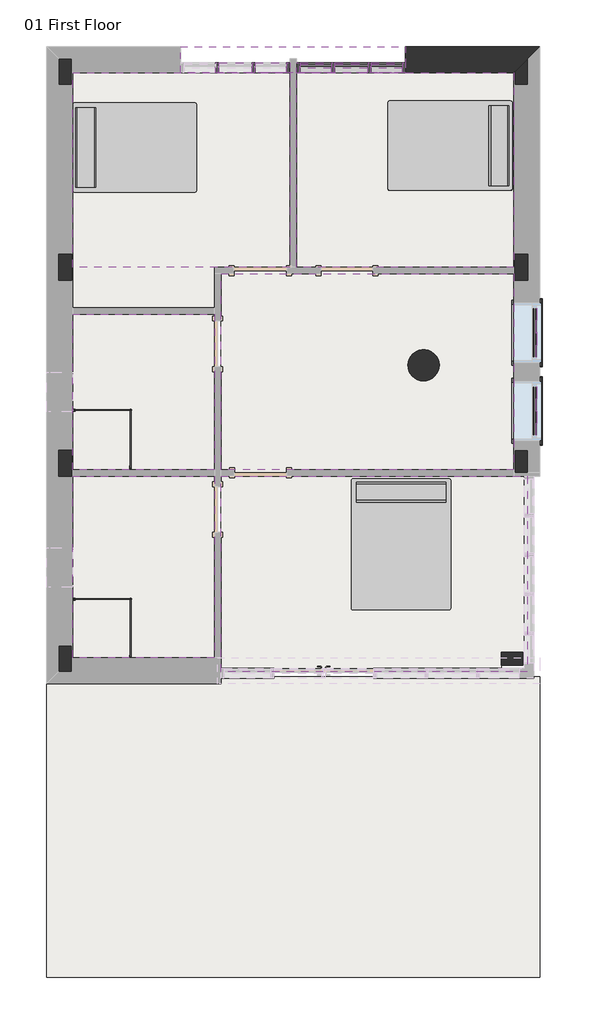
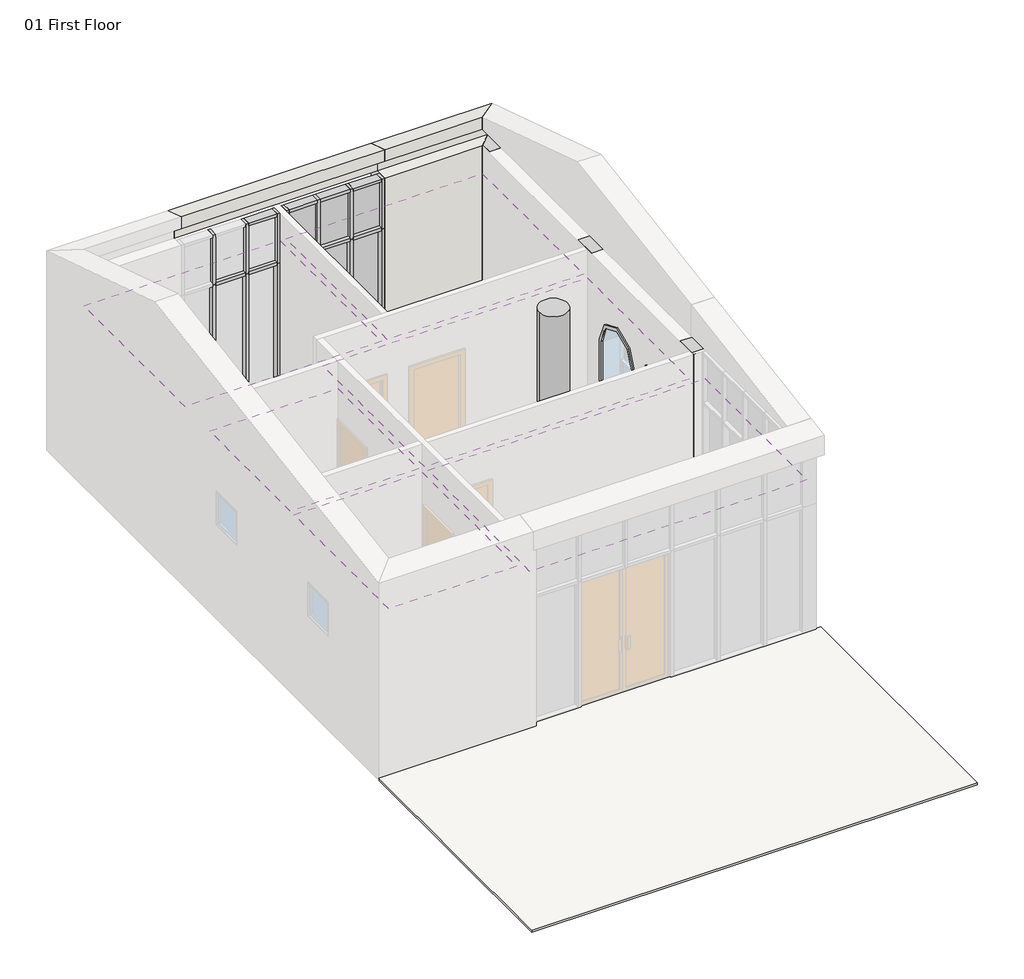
# One storey, part 3 of 3: 26 members, 9 columns, 8 proxies, 6 coverings, 6 plates, 4 flow terminals, 4 slabs, 3 furniture elements, 2 walls.
"""IFC4 building model written with IfcOpenShell, lengths in millimetres."""

from ifc_helpers import new_model, si_unit, point, frame, frame_2d, origin, place, context, project, spatial, polyline, circle_curve, trimmed, segment, composite_curve, outline, extrude, faceted_brep, transform, mapped, element, save
from components import m_muntin_pattern_2x2_m_muntin_pattern_2x2_eda20b33, m_trim_window_exterior_arch_hung_with_sill_d6b66b3f, m_trim_window_interior_arch_hung_picture_frame_427b2bff, cubicle_half_16156615, cubicle_half_ac79c43e, m_bed_standard_1372_x_1905mm_double_2dcc4a2e, m_bed_standard_1525_x_2007mm_queen_67038778, rectangular_mullion_50_x_150mm_8753ce05, rectangular_mullion_50_x_150mm_f70f74d1, rectangular_mullion_50_x_150mm_d1e66009, rectangular_mullion_50_x_150mm_158f91f9, rectangular_mullion_50_x_150mm_7e1a8c17, rectangular_mullion_50_x_150mm_3ddb3363, rectangular_mullion_50_x_150mm_35d6a770, rectangular_mullion_50_x_150mm_8bb02af5, rectangular_mullion_50_x_150mm_36ef6b42, rectangular_mullion_50_x_150mm_777ece87, rectangular_mullion_50_x_150mm_77e6cf30, system_panel_glazed_dae2c24c, system_panel_glazed_5e1a99da, system_panel_solid_02889cea, system_panel_solid_591e5d25

model = new_model("IFC4")

# Units and contexts
model_context = context("Model", 3, world=origin())
ifc_project = project(units=[si_unit("LENGTHUNIT", "METRE", prefix="MILLI")], contexts=[model_context])

# Site, building, storey
site = spatial("IfcSite", under=ifc_project)
building = spatial("IfcBuilding", under=site)
storey = spatial("IfcBuildingStorey", under=building, Name="01 First Floor", Elevation=3500.0)

# Proxies
placement = place(None, origin())
m_muntin_pattern_2x2_m_muntin_pattern_2x2_shape = m_muntin_pattern_2x2_m_muntin_pattern_2x2_eda20b33(model_context)
element("IfcBuildingElementProxy", 1, Name="M_Muntin Pattern_2x2 : M_Muntin Pattern_2x2", ObjectType="M_Muntin Pattern_2x2 : M_Muntin Pattern_2x2", at=placement, inside=storey, context=model_context, shape_type="MappedRepresentation", body=[
    mapped(m_muntin_pattern_2x2_m_muntin_pattern_2x2_shape, transform((-972.4657999, 936.7898352, 4922.225), x_axis=(0.0, -1.0, 0.0), y_axis=(1.0, 0.0, 0.0), z_axis=(0.0, 0.0, 1.0))),
])
element("IfcBuildingElementProxy", 2, Name="M_Muntin Pattern_2x2 : M_Muntin Pattern_2x2", ObjectType="M_Muntin Pattern_2x2 : M_Muntin Pattern_2x2", at=placement, inside=storey, context=model_context, shape_type="MappedRepresentation", body=[
    mapped(m_muntin_pattern_2x2_m_muntin_pattern_2x2_shape, transform((-1016.9157999, 936.7898352, 4076.2), x_axis=(0.0, -1.0, 0.0), y_axis=(1.0, 0.0, 0.0), z_axis=(0.0, 0.0, 1.0))),
])
element("IfcBuildingElementProxy", 3, Name="M_Muntin Pattern_2x2 : M_Muntin Pattern_2x2", ObjectType="M_Muntin Pattern_2x2 : M_Muntin Pattern_2x2", at=placement, inside=storey, context=model_context, shape_type="MappedRepresentation", body=[
    mapped(m_muntin_pattern_2x2_m_muntin_pattern_2x2_shape, transform((-972.4657999, 2136.7898352, 4922.225), x_axis=(0.0, -1.0, 0.0), y_axis=(1.0, 0.0, 0.0), z_axis=(0.0, 0.0, 1.0))),
])
element("IfcBuildingElementProxy", 4, Name="M_Muntin Pattern_2x2 : M_Muntin Pattern_2x2", ObjectType="M_Muntin Pattern_2x2 : M_Muntin Pattern_2x2", at=placement, inside=storey, context=model_context, shape_type="MappedRepresentation", body=[
    mapped(m_muntin_pattern_2x2_m_muntin_pattern_2x2_shape, transform((-1016.9157999, 2136.7898352, 4076.2), x_axis=(0.0, -1.0, 0.0), y_axis=(1.0, 0.0, 0.0), z_axis=(0.0, 0.0, 1.0))),
])
m_trim_window_exterior_arch_hung_with_sill_shape = m_trim_window_exterior_arch_hung_with_sill_d6b66b3f(model_context)
element("IfcBuildingElementProxy", 5, Name="M_Trim-Window-Exterior-Arch-Hung : with Sill", ObjectType="M_Trim-Window-Exterior-Arch-Hung : with Sill", at=placement, inside=storey, context=model_context, shape_type="MappedRepresentation", body=[
    mapped(m_trim_window_exterior_arch_hung_with_sill_shape, transform((-937.5407999, 936.7898352, 5800.0), x_axis=(0.0, 1.0, 0.0), y_axis=(0.0, 0.0, 1.0), z_axis=(1.0, 0.0, 0.0))),
])
element("IfcBuildingElementProxy", 6, Name="M_Trim-Window-Exterior-Arch-Hung : with Sill", ObjectType="M_Trim-Window-Exterior-Arch-Hung : with Sill", at=placement, inside=storey, context=model_context, shape_type="MappedRepresentation", body=[
    mapped(m_trim_window_exterior_arch_hung_with_sill_shape, transform((-937.5407999, 2136.7898352, 5800.0), x_axis=(0.0, 1.0, 0.0), y_axis=(0.0, 0.0, 1.0), z_axis=(1.0, 0.0, 0.0))),
])
m_trim_window_interior_arch_hung_picture_frame_shape = m_trim_window_interior_arch_hung_picture_frame_427b2bff(model_context)
element("IfcBuildingElementProxy", 7, Name="M_Trim-Window-Interior-Arch-Hung : Picture Frame", ObjectType="M_Trim-Window-Interior-Arch-Hung : Picture Frame", at=placement, inside=storey, context=model_context, shape_type="MappedRepresentation", body=[
    mapped(m_trim_window_interior_arch_hung_picture_frame_shape, transform((-1335.5407999, 936.7898352, 5800.0), x_axis=(0.0, -1.0, 0.0), y_axis=(0.0, 0.0, 1.0), z_axis=(-1.0, 0.0, 0.0))),
])
element("IfcBuildingElementProxy", 8, Name="M_Trim-Window-Interior-Arch-Hung : Picture Frame", ObjectType="M_Trim-Window-Interior-Arch-Hung : Picture Frame", at=placement, inside=storey, context=model_context, shape_type="MappedRepresentation", body=[
    mapped(m_trim_window_interior_arch_hung_picture_frame_shape, transform((-1335.5407999, 2136.7898352, 5800.0), x_axis=(0.0, -1.0, 0.0), y_axis=(0.0, 0.0, 1.0), z_axis=(-1.0, 0.0, 0.0))),
])

# Columns
element("IfcColumn", 9, ObjectType="M_Concrete-Rectangular-Column : 200 x 325mm", at=placement, inside=storey, context=model_context, shape_type="SweptSolid", body=[
    extrude(outline(polyline([(-1527.5407999, -2762.7101648), (-1202.5407999, -2762.7101648), (-1202.5407999, -2962.7101648), (-1527.5407999, -2962.7101648), (-1527.5407999, -2762.7101648)])), frame((0.0, 0.0, 3500.0), z_axis=(0.0, 0.0, 1.0), x_axis=(1.0, 0.0, 0.0)), (0.0, 0.0, 1.0), 3200.0),
])
element("IfcColumn", 10, ObjectType="M_Concrete-Rectangular-Column : 200 x 400mm", at=placement, inside=storey, context=model_context, shape_type="Brep", body=[
    faceted_brep([(-8122.5407999, 6337.2898352, 3500.0), (-8122.5407999, 6137.2898352, 3500.0), (-8122.5407999, 5937.2898352, 3500.0), (-8322.5407999, 5937.2898352, 3500.0), (-8322.5407999, 6337.2898352, 3500.0), (-8122.5407999, 6337.2898352, 6700.0), (-8122.5407999, 6137.2898352, 6700.0), (-8122.5407999, 5937.2898352, 6700.0), (-8322.5407999, 5937.2898352, 6700.0), (-8322.5407999, 6337.2898352, 6700.0)], [[[0, 1, 2, 3, 4]], [[2, 1, 0, 5, 6, 7]], [[3, 2, 7, 8]], [[4, 3, 8, 9]], [[0, 4, 9, 5]], [[7, 6, 5, 9, 8]]]),
])
element("IfcColumn", 11, ObjectType="M_Concrete-Rectangular-Column : 200 x 400mm", at=placement, inside=storey, context=model_context, shape_type="SweptSolid", body=[
    extrude(outline(polyline([(-8122.5407999, 3337.2898352), (-8122.5407999, 2937.2898352), (-8322.5407999, 2937.2898352), (-8322.5407999, 3337.2898352), (-8122.5407999, 3337.2898352)])), frame((0.0, 0.0, 3500.0), z_axis=(0.0, 0.0, 1.0), x_axis=(1.0, 0.0, 0.0)), (0.0, 0.0, 1.0), 3200.0),
])
element("IfcColumn", 12, ObjectType="M_Concrete-Rectangular-Column : 200 x 400mm", at=placement, inside=storey, context=model_context, shape_type="SweptSolid", body=[
    extrude(outline(polyline([(-8122.5407999, 337.2898352), (-8122.5407999, -62.7101648), (-8322.5407999, -62.7101648), (-8322.5407999, 337.2898352), (-8122.5407999, 337.2898352)])), frame((0.0, 0.0, 3500.0), z_axis=(0.0, 0.0, 1.0), x_axis=(1.0, 0.0, 0.0)), (0.0, 0.0, 1.0), 3200.0),
])
element("IfcColumn", 13, ObjectType="M_Concrete-Rectangular-Column : 200 x 400mm", at=placement, inside=storey, context=model_context, shape_type="Brep", body=[
    faceted_brep([(-8122.5407999, -2662.7101648, 3500.0), (-8122.5407999, -2862.7101648, 3500.0), (-8122.5407999, -3062.7101648, 3500.0), (-8322.5407999, -3062.7101648, 3500.0), (-8322.5407999, -2662.7101648, 3500.0), (-8122.5407999, -2662.7101648, 6700.0), (-8122.5407999, -2862.7101648, 6700.0), (-8122.5407999, -3062.7101648, 6700.0), (-8322.5407999, -3062.7101648, 6700.0), (-8322.5407999, -2662.7101648, 6700.0)], [[[0, 1, 2, 3, 4]], [[2, 1, 0, 5, 6, 7]], [[3, 2, 7, 8]], [[4, 3, 8, 9]], [[0, 4, 9, 5]], [[7, 6, 5, 9, 8]]]),
])
element("IfcColumn", 14, ObjectType="M_Concrete-Rectangular-Column : 200 x 400mm", at=placement, inside=storey, context=model_context, shape_type="Brep", body=[
    faceted_brep([(-1122.5407999, 337.2898352, 3500.0), (-1122.5407999, -12.7101648, 3500.0), (-1122.5407999, -62.7101648, 3500.0), (-1322.5407999, -62.7101648, 3500.0), (-1322.5407999, -12.7101648, 3500.0), (-1322.5407999, 337.2898352, 3500.0), (-1122.5407999, 337.2898352, 6700.0), (-1122.5407999, -62.7101648, 6700.0), (-1322.5407999, -62.7101648, 6700.0), (-1322.5407999, -12.7101648, 6700.0), (-1322.5407999, 337.2898352, 6700.0)], [[[0, 1, 2, 3, 4, 5]], [[2, 1, 0, 6, 7]], [[3, 2, 7, 8]], [[5, 4, 3, 8, 9, 10]], [[0, 5, 10, 6]], [[7, 6, 10, 9, 8]]]),
])
element("IfcColumn", 15, ObjectType="M_Concrete-Rectangular-Column : 200 x 400mm", at=placement, inside=storey, context=model_context, shape_type="Brep", body=[
    faceted_brep([(-1122.5407999, 6337.2898352, 3500.0), (-1122.5407999, 5937.2898352, 3500.0), (-1322.5407999, 5937.2898352, 3500.0), (-1322.5407999, 6137.2898352, 3500.0), (-1322.5407999, 6337.2898352, 3500.0), (-1122.5407999, 6337.2898352, 6700.0), (-1122.5407999, 5937.2898352, 6700.0), (-1322.5407999, 5937.2898352, 6700.0), (-1322.5407999, 6137.2898352, 6700.0), (-1322.5407999, 6337.2898352, 6700.0)], [[[0, 1, 2, 3, 4]], [[1, 0, 5, 6]], [[2, 1, 6, 7]], [[4, 3, 2, 7, 8, 9]], [[0, 4, 9, 5]], [[6, 5, 9, 8, 7]]]),
])
element("IfcColumn", 16, ObjectType="M_Concrete-Rectangular-Column : 200 x 400mm", at=placement, inside=storey, context=model_context, shape_type="SweptSolid", body=[
    extrude(outline(polyline([(-1122.5407999, 3337.2898352), (-1122.5407999, 2937.2898352), (-1322.5407999, 2937.2898352), (-1322.5407999, 3337.2898352), (-1122.5407999, 3337.2898352)])), frame((0.0, 0.0, 3500.0), z_axis=(0.0, 0.0, 1.0), x_axis=(1.0, 0.0, 0.0)), (0.0, 0.0, 1.0), 3200.0),
])
element("IfcColumn", 17, ObjectType="M_Concrete-Round-Column : 480mm", at=placement, inside=storey, context=model_context, shape_type="SweptSolid", body=[
    extrude(outline(composite_curve([segment(trimmed(circle_curve(frame_2d((-2722.5407999, 1637.2898352)), 240.0), [point((-2962.5407999, 1637.2898352))], [point((-2482.5407999, 1637.2898352))], False, "CARTESIAN"), True, "CONTINUOUS"), segment(trimmed(circle_curve(frame_2d((-2722.5407999, 1637.2898352)), 240.0), [point((-2482.5407999, 1637.2898352))], [point((-2962.5407999, 1637.2898352))], False, "CARTESIAN"), True, "CONTINUOUS")], self_intersect=False)), frame((0.0, 0.0, 3500.0), z_axis=(0.0, 0.0, 1.0), x_axis=(1.0, 0.0, 0.0)), (0.0, 0.0, 1.0), 3500.0),
])

# Coverings
element("IfcCovering", 18, ObjectType="600 x 600mm Grid", at=placement, inside=storey, context=model_context, shape_type="SweptSolid", body=[
    extrude(outline(polyline([(-1127.5407999, -62.7101648), (-1127.5407999, -3062.7101648), (-5832.5407999, -3062.7101648), (-5832.5407999, -62.7101648), (-1127.5407999, -62.7101648)])), frame((0.0, 0.0, 6200.0), z_axis=(0.0, 0.0, 1.0), x_axis=(1.0, 0.0, 0.0)), (0.0, 0.0, 1.0), 52.0),
])
element("IfcCovering", 19, ObjectType="600 x 600mm Grid", at=placement, inside=storey, context=model_context, shape_type="SweptSolid", body=[
    extrude(outline(polyline([(-5832.5407999, 3037.2898352), (-1335.5407999, 3037.6532062), (-1335.5407999, 37.2898352), (-5832.5407999, 37.2898352), (-5832.5407999, 3037.2898352)]), holes=[composite_curve([segment(polyline([(-3762.5550463, 1637.3625525), (-2962.1657331, 1637.3625525)]), True, "CONTINUOUS"), segment(trimmed(circle_curve(frame_2d((-2722.147977, 1637.3625525)), 240.0177561), [point((-2962.1657331, 1637.3625525))], [point((-2722.147977, 1397.3447964))], False, "CARTESIAN"), True, "CONTINUOUS"), segment(polyline([(-2722.147977, 1397.3447964), (-2709.6572376, 597.4130295)]), True, "CONTINUOUS"), segment(trimmed(circle_curve(frame_2d((-2722.5259059, 1637.3625525)), 1040.0291404), [point((-2709.6572376, 597.4130295))], [point((-3762.5550463, 1637.3625525))], True, "CARTESIAN"), True, "CONTINUOUS")], self_intersect=False)]), frame((0.0, 0.0, 6200.0), z_axis=(0.0, 0.0, 1.0), x_axis=(1.0, 0.0, 0.0)), (0.0, 0.0, 1.0), 52.0),
])
element("IfcCovering", 20, ObjectType="600 x 600mm Grid", at=placement, inside=storey, context=model_context, shape_type="SweptSolid", body=[
    extrude(outline(polyline([(-2997.5407999, 6124.2898352), (-1335.5407999, 6124.2898352), (-1335.5407999, 3137.6532065), (-4672.5407999, 3137.383567), (-4672.5407999, 6124.2898352), (-2997.5407999, 6124.2898352)])), frame((0.0, 0.0, 6200.0), z_axis=(0.0, 0.0, 1.0), x_axis=(1.0, 0.0, 0.0)), (0.0, 0.0, 1.0), 52.0),
])
element("IfcCovering", 21, ObjectType="600 x 600mm Grid", at=placement, inside=storey, context=model_context, shape_type="SweptSolid", body=[
    extrude(outline(polyline([(-4772.5407999, 6124.2898352), (-4772.5407999, 3137.3754867), (-8109.5407999, 3137.3754867), (-8109.5407999, 6124.2898352), (-4772.5407999, 6124.2898352)])), frame((0.0, 0.0, 6200.0), z_axis=(0.0, 0.0, 1.0), x_axis=(1.0, 0.0, 0.0)), (0.0, 0.0, 1.0), 52.0),
])
element("IfcCovering", 22, ObjectType="600 x 600mm Grid", at=placement, inside=storey, context=model_context, shape_type="SweptSolid", body=[
    extrude(outline(polyline([(-5932.5407999, 37.2898352), (-8109.5407999, 37.2898352), (-8109.5407999, 2415.8732706), (-5932.5407999, 2415.8732706), (-5932.5407999, 37.2898352)])), frame((0.0, 0.0, 6200.0), z_axis=(0.0, 0.0, 1.0), x_axis=(1.0, 0.0, 0.0)), (0.0, 0.0, 1.0), 52.0),
])
element("IfcCovering", 23, ObjectType="600 x 600mm Grid", at=placement, inside=storey, context=model_context, shape_type="SweptSolid", body=[
    extrude(outline(polyline([(-5932.5407999, -2849.7101648), (-8109.5407999, -2849.7101648), (-8109.5407999, -62.7101648), (-5932.5407999, -62.7101648), (-5932.5407999, -2849.7101648)])), frame((0.0, 0.0, 6200.0), z_axis=(0.0, 0.0, 1.0), x_axis=(1.0, 0.0, 0.0)), (0.0, 0.0, 1.0), 52.0),
])

# Flow terminals
cubicle_half_shape = cubicle_half_16156615(model_context)
element("IfcFlowTerminal", 24, ObjectType="Sanitary_Showers_Rare_OPEN-F00 : CUBICLE HALF", at=placement, inside=storey, context=model_context, shape_type="MappedRepresentation", body=[
    mapped(cubicle_half_shape, transform((-7234.0549259, -2849.7101648, 3700.0), x_axis=(0.0, 1.0, 0.0), y_axis=(-1.0, 0.0, 0.0), z_axis=(0.0, 0.0, 1.0))),
])
element("IfcFlowTerminal", 25, ObjectType="Sanitary_Showers_Rare_OPEN-F00 : CUBICLE HALF", at=placement, inside=storey, context=model_context, shape_type="MappedRepresentation", body=[
    mapped(cubicle_half_shape, transform((-7234.0549259, 50.2898352, 3700.0), x_axis=(0.0, 1.0, 0.0), y_axis=(-1.0, 0.0, 0.0), z_axis=(0.0, 0.0, 1.0))),
])
cubicle_half_2_shape = cubicle_half_ac79c43e(model_context)
element("IfcFlowTerminal", 26, ObjectType="Sanitary_Showers_Rare_OPEN-F00 : CUBICLE HALF", at=placement, inside=storey, context=model_context, shape_type="MappedRepresentation", body=[
    mapped(cubicle_half_2_shape, transform((-8109.5407999, -1964.2242907, 3688.0), x_axis=(1.0, 0.0, 0.0), y_axis=(0.0, 1.0, 0.0), z_axis=(0.0, 0.0, 1.0))),
])
element("IfcFlowTerminal", 27, ObjectType="Sanitary_Showers_Rare_OPEN-F00 : CUBICLE HALF", at=placement, inside=storey, context=model_context, shape_type="MappedRepresentation", body=[
    mapped(cubicle_half_2_shape, transform((-8109.5407999, 935.7757093, 3688.0), x_axis=(1.0, 0.0, 0.0), y_axis=(0.0, 1.0, 0.0), z_axis=(0.0, 0.0, 1.0))),
])

# Furniture
m_bed_standard_1372_x_1905mm_double_shape = m_bed_standard_1372_x_1905mm_double_2dcc4a2e(model_context)
element("IfcFurniture", 28, ObjectType="M_Bed-Standard : 1372 x 1905mm - Double", at=placement, inside=storey, context=model_context, shape_type="MappedRepresentation", body=[
    mapped(m_bed_standard_1372_x_1905mm_double_shape, transform((-2270.445718, 5273.7783598, 3515.0), x_axis=(0.0, -1.0, 0.0), y_axis=(1.0, 0.0, 0.0), z_axis=(0.0, 0.0, 1.0))),
])
element("IfcFurniture", 29, ObjectType="M_Bed-Standard : 1372 x 1905mm - Double", at=placement, inside=storey, context=model_context, shape_type="MappedRepresentation", body=[
    mapped(m_bed_standard_1372_x_1905mm_double_shape, transform((-7202.6358819, 4702.8013106, 3515.0), x_axis=(0.0, 1.0, 0.0), y_axis=(-1.0, 0.0, 0.0), z_axis=(0.0, 0.0, 1.0))),
])
m_bed_standard_1525_x_2007mm_queen_shape = m_bed_standard_1525_x_2007mm_queen_67038778(model_context)
element("IfcFurniture", 30, ObjectType="M_Bed-Standard : 1525 x 2007mm - Queen", at=placement, inside=storey, context=model_context, shape_type="MappedRepresentation", body=[
    mapped(m_bed_standard_1525_x_2007mm_queen_shape, transform((-3340.0293245, -1062.6150828, 3515.0), x_axis=(1.0, 0.0, 0.0), y_axis=(0.0, 1.0, 0.0), z_axis=(0.0, 0.0, 1.0))),
])

# Members
rectangular_mullion_50_x_150mm_shape = rectangular_mullion_50_x_150mm_8753ce05(model_context)
element("IfcMember", 31, ObjectType="Rectangular Mullion : 50 x 150mm", at=placement, inside=storey, context=model_context, shape_type="MappedRepresentation", body=[
    mapped(rectangular_mullion_50_x_150mm_shape, transform((-4772.5407999, 6199.2898352, 3500.0), x_axis=(1.0, 0.0, 0.0), y_axis=(0.0, -1.0, 0.0), z_axis=(0.0, 0.0, -1.0))),
])
element("IfcMember", 32, ObjectType="Rectangular Mullion : 50 x 150mm", at=placement, inside=storey, context=model_context, shape_type="MappedRepresentation", body=[
    mapped(rectangular_mullion_50_x_150mm_shape, transform((-2997.5407999, 6199.2898352, 3500.0), x_axis=(1.0, 0.0, 0.0), y_axis=(0.0, -1.0, 0.0), z_axis=(0.0, 0.0, -1.0))),
])
element("IfcMember", 33, ObjectType="Rectangular Mullion : 50 x 150mm", at=placement, inside=storey, context=model_context, shape_type="MappedRepresentation", body=[
    mapped(rectangular_mullion_50_x_150mm_shape, transform((-4668.7907999, 6199.2898352, 5800.0), x_axis=(-1.0, 0.0, 0.0), y_axis=(0.0, -1.0, 0.0), z_axis=(0.0, 0.0, 1.0))),
])
rectangular_mullion_50_x_150mm_2_shape = rectangular_mullion_50_x_150mm_f70f74d1(model_context)
element("IfcMember", 34, ObjectType="Rectangular Mullion : 50 x 150mm", at=placement, inside=storey, context=model_context, shape_type="MappedRepresentation", body=[
    mapped(rectangular_mullion_50_x_150mm_2_shape, transform((-5889.2074665, 6199.2898352, 3500.0), x_axis=(1.0, 0.0, 0.0), y_axis=(0.0, -1.0, 0.0), z_axis=(0.0, 0.0, -1.0))),
])
element("IfcMember", 35, ObjectType="Rectangular Mullion : 50 x 150mm", at=placement, inside=storey, context=model_context, shape_type="MappedRepresentation", body=[
    mapped(rectangular_mullion_50_x_150mm_2_shape, transform((-5330.8741334, 6199.2898352, 3500.0), x_axis=(1.0, 0.0, 0.0), y_axis=(0.0, -1.0, 0.0), z_axis=(0.0, 0.0, -1.0))),
])
element("IfcMember", 36, ObjectType="Rectangular Mullion : 50 x 150mm", at=placement, inside=storey, context=model_context, shape_type="MappedRepresentation", body=[
    mapped(rectangular_mullion_50_x_150mm_2_shape, transform((-4111.7074665, 6199.2898352, 3500.0), x_axis=(1.0, 0.0, 0.0), y_axis=(0.0, -1.0, 0.0), z_axis=(0.0, 0.0, -1.0))),
])
element("IfcMember", 37, ObjectType="Rectangular Mullion : 50 x 150mm", at=placement, inside=storey, context=model_context, shape_type="MappedRepresentation", body=[
    mapped(rectangular_mullion_50_x_150mm_2_shape, transform((-3554.6241334, 6199.2898352, 3500.0), x_axis=(1.0, 0.0, 0.0), y_axis=(0.0, -1.0, 0.0), z_axis=(0.0, 0.0, -1.0))),
])
rectangular_mullion_50_x_150mm_3_shape = rectangular_mullion_50_x_150mm_d1e66009(model_context)
element("IfcMember", 38, ObjectType="Rectangular Mullion : 50 x 150mm", at=placement, inside=storey, context=model_context, shape_type="MappedRepresentation", body=[
    mapped(rectangular_mullion_50_x_150mm_3_shape, transform((-4822.5407999, 6199.2898352, 6700.0), x_axis=(0.0, 0.0, 1.0), y_axis=(0.0, -1.0, 0.0), z_axis=(1.0, 0.0, 0.0))),
])
rectangular_mullion_50_x_150mm_4_shape = rectangular_mullion_50_x_150mm_158f91f9(model_context)
element("IfcMember", 39, ObjectType="Rectangular Mullion : 50 x 150mm", at=placement, inside=storey, context=model_context, shape_type="MappedRepresentation", body=[
    mapped(rectangular_mullion_50_x_150mm_4_shape, transform((-4822.5407999, 6199.2898352, 5800.0), x_axis=(0.0, 0.0, 1.0), y_axis=(0.0, -1.0, 0.0), z_axis=(1.0, 0.0, 0.0))),
])
rectangular_mullion_50_x_150mm_5_shape = rectangular_mullion_50_x_150mm_7e1a8c17(model_context)
element("IfcMember", 40, ObjectType="Rectangular Mullion : 50 x 150mm", at=placement, inside=storey, context=model_context, shape_type="MappedRepresentation", body=[
    mapped(rectangular_mullion_50_x_150mm_5_shape, transform((-5355.8741334, 6199.2898352, 5800.0), x_axis=(0.0, 0.0, 1.0), y_axis=(0.0, -1.0, 0.0), z_axis=(1.0, 0.0, 0.0))),
])
rectangular_mullion_50_x_150mm_6_shape = rectangular_mullion_50_x_150mm_3ddb3363(model_context)
element("IfcMember", 41, ObjectType="Rectangular Mullion : 50 x 150mm", at=placement, inside=storey, context=model_context, shape_type="MappedRepresentation", body=[
    mapped(rectangular_mullion_50_x_150mm_6_shape, transform((-5889.2074665, 6199.2898352, 5800.0), x_axis=(1.0, 0.0, 0.0), y_axis=(0.0, -1.0, 0.0), z_axis=(0.0, 0.0, -1.0))),
])
element("IfcMember", 42, ObjectType="Rectangular Mullion : 50 x 150mm", at=placement, inside=storey, context=model_context, shape_type="MappedRepresentation", body=[
    mapped(rectangular_mullion_50_x_150mm_6_shape, transform((-5330.8741334, 6199.2898352, 5800.0), x_axis=(1.0, 0.0, 0.0), y_axis=(0.0, -1.0, 0.0), z_axis=(0.0, 0.0, -1.0))),
])
element("IfcMember", 43, ObjectType="Rectangular Mullion : 50 x 150mm", at=placement, inside=storey, context=model_context, shape_type="MappedRepresentation", body=[
    mapped(rectangular_mullion_50_x_150mm_6_shape, transform((-4111.7074665, 6199.2898352, 5800.0), x_axis=(1.0, 0.0, 0.0), y_axis=(0.0, -1.0, 0.0), z_axis=(0.0, 0.0, -1.0))),
])
element("IfcMember", 44, ObjectType="Rectangular Mullion : 50 x 150mm", at=placement, inside=storey, context=model_context, shape_type="MappedRepresentation", body=[
    mapped(rectangular_mullion_50_x_150mm_6_shape, transform((-3554.6241334, 6199.2898352, 5800.0), x_axis=(1.0, 0.0, 0.0), y_axis=(0.0, -1.0, 0.0), z_axis=(0.0, 0.0, -1.0))),
])
rectangular_mullion_50_x_150mm_7_shape = rectangular_mullion_50_x_150mm_35d6a770(model_context)
element("IfcMember", 45, ObjectType="Rectangular Mullion : 50 x 150mm", at=placement, inside=storey, context=model_context, shape_type="MappedRepresentation", body=[
    mapped(rectangular_mullion_50_x_150mm_7_shape, transform((-4772.5407999, 6199.2898352, 5800.0), x_axis=(1.0, 0.0, 0.0), y_axis=(0.0, -1.0, 0.0), z_axis=(0.0, 0.0, -1.0))),
])
element("IfcMember", 46, ObjectType="Rectangular Mullion : 50 x 150mm", at=placement, inside=storey, context=model_context, shape_type="MappedRepresentation", body=[
    mapped(rectangular_mullion_50_x_150mm_7_shape, transform((-2997.5407999, 6199.2898352, 5800.0), x_axis=(1.0, 0.0, 0.0), y_axis=(0.0, -1.0, 0.0), z_axis=(0.0, 0.0, -1.0))),
])
element("IfcMember", 47, ObjectType="Rectangular Mullion : 50 x 150mm", at=placement, inside=storey, context=model_context, shape_type="MappedRepresentation", body=[
    mapped(rectangular_mullion_50_x_150mm_7_shape, transform((-4668.7907999, 6199.2898352, 6700.0), x_axis=(-1.0, 0.0, 0.0), y_axis=(0.0, -1.0, 0.0), z_axis=(0.0, 0.0, 1.0))),
])
rectangular_mullion_50_x_150mm_8_shape = rectangular_mullion_50_x_150mm_8bb02af5(model_context)
element("IfcMember", 48, ObjectType="Rectangular Mullion : 50 x 150mm", at=placement, inside=storey, context=model_context, shape_type="MappedRepresentation", body=[
    mapped(rectangular_mullion_50_x_150mm_8_shape, transform((-3047.5407999, 6199.2898352, 6700.0), x_axis=(0.0, 0.0, 1.0), y_axis=(0.0, -1.0, 0.0), z_axis=(1.0, 0.0, 0.0))),
])
element("IfcMember", 49, ObjectType="Rectangular Mullion : 50 x 150mm", at=placement, inside=storey, context=model_context, shape_type="MappedRepresentation", body=[
    mapped(rectangular_mullion_50_x_150mm_8_shape, transform((-4136.7074665, 6199.2898352, 6700.0), x_axis=(0.0, 0.0, 1.0), y_axis=(0.0, -1.0, 0.0), z_axis=(1.0, 0.0, 0.0))),
])
rectangular_mullion_50_x_150mm_9_shape = rectangular_mullion_50_x_150mm_36ef6b42(model_context)
element("IfcMember", 50, ObjectType="Rectangular Mullion : 50 x 150mm", at=placement, inside=storey, context=model_context, shape_type="MappedRepresentation", body=[
    mapped(rectangular_mullion_50_x_150mm_9_shape, transform((-3579.6241334, 6199.2898352, 6700.0), x_axis=(0.0, 0.0, 1.0), y_axis=(0.0, -1.0, 0.0), z_axis=(1.0, 0.0, 0.0))),
])
element("IfcMember", 51, ObjectType="Rectangular Mullion : 50 x 150mm", at=placement, inside=storey, context=model_context, shape_type="MappedRepresentation", body=[
    mapped(rectangular_mullion_50_x_150mm_8_shape, transform((-4618.7907999, 6199.2898352, 3500.0), x_axis=(0.0, 0.0, -1.0), y_axis=(0.0, -1.0, 0.0), z_axis=(-1.0, 0.0, 0.0))),
])
element("IfcMember", 52, ObjectType="Rectangular Mullion : 50 x 150mm", at=placement, inside=storey, context=model_context, shape_type="MappedRepresentation", body=[
    mapped(rectangular_mullion_50_x_150mm_8_shape, transform((-3529.6241334, 6199.2898352, 3500.0), x_axis=(0.0, 0.0, -1.0), y_axis=(0.0, -1.0, 0.0), z_axis=(-1.0, 0.0, 0.0))),
])
element("IfcMember", 53, ObjectType="Rectangular Mullion : 50 x 150mm", at=placement, inside=storey, context=model_context, shape_type="MappedRepresentation", body=[
    mapped(rectangular_mullion_50_x_150mm_9_shape, transform((-4086.7074665, 6199.2898352, 3500.0), x_axis=(0.0, 0.0, -1.0), y_axis=(0.0, -1.0, 0.0), z_axis=(-1.0, 0.0, 0.0))),
])
rectangular_mullion_50_x_150mm_10_shape = rectangular_mullion_50_x_150mm_777ece87(model_context)
element("IfcMember", 54, ObjectType="Rectangular Mullion : 50 x 150mm", at=placement, inside=storey, context=model_context, shape_type="MappedRepresentation", body=[
    mapped(rectangular_mullion_50_x_150mm_10_shape, transform((-4136.7074665, 6199.2898352, 5800.0), x_axis=(0.0, 0.0, 1.0), y_axis=(0.0, -1.0, 0.0), z_axis=(1.0, 0.0, 0.0))),
])
element("IfcMember", 55, ObjectType="Rectangular Mullion : 50 x 150mm", at=placement, inside=storey, context=model_context, shape_type="MappedRepresentation", body=[
    mapped(rectangular_mullion_50_x_150mm_10_shape, transform((-3047.5407999, 6199.2898352, 5800.0), x_axis=(0.0, 0.0, 1.0), y_axis=(0.0, -1.0, 0.0), z_axis=(1.0, 0.0, 0.0))),
])
rectangular_mullion_50_x_150mm_11_shape = rectangular_mullion_50_x_150mm_77e6cf30(model_context)
element("IfcMember", 56, ObjectType="Rectangular Mullion : 50 x 150mm", at=placement, inside=storey, context=model_context, shape_type="MappedRepresentation", body=[
    mapped(rectangular_mullion_50_x_150mm_11_shape, transform((-3579.6241334, 6199.2898352, 5800.0), x_axis=(0.0, 0.0, 1.0), y_axis=(0.0, -1.0, 0.0), z_axis=(1.0, 0.0, 0.0))),
])

# Plates
system_panel_glazed_shape = system_panel_glazed_dae2c24c(model_context)
element("IfcPlate", 57, ObjectType="System Panel : Glazed", at=placement, inside=storey, context=model_context, shape_type="MappedRepresentation", body=[
    mapped(system_panel_glazed_shape, transform((-4377.7491332, 6199.2898352, 3550.0), x_axis=(1.0, 0.0, 0.0), y_axis=(0.0, 1.0, 0.0), z_axis=(0.0, 0.0, 1.0))),
])
element("IfcPlate", 58, ObjectType="System Panel : Glazed", at=placement, inside=storey, context=model_context, shape_type="MappedRepresentation", body=[
    mapped(system_panel_glazed_shape, transform((-3288.5824667, 6199.2898352, 3550.0), x_axis=(1.0, 0.0, 0.0), y_axis=(0.0, 1.0, 0.0), z_axis=(0.0, 0.0, 1.0))),
])
system_panel_glazed_2_shape = system_panel_glazed_5e1a99da(model_context)
element("IfcPlate", 59, ObjectType="System Panel : Glazed", at=placement, inside=storey, context=model_context, shape_type="MappedRepresentation", body=[
    mapped(system_panel_glazed_2_shape, transform((-3833.1657999, 6199.2898352, 3550.0), x_axis=(1.0, 0.0, 0.0), y_axis=(0.0, 1.0, 0.0), z_axis=(0.0, 0.0, 1.0))),
])
system_panel_solid_shape = system_panel_solid_02889cea(model_context)
element("IfcPlate", 60, ObjectType="System Panel : Solid", at=placement, inside=storey, context=model_context, shape_type="MappedRepresentation", body=[
    mapped(system_panel_solid_shape, transform((-4377.7491332, 6199.2898352, 5825.0), x_axis=(1.0, 0.0, 0.0), y_axis=(0.0, 1.0, 0.0), z_axis=(0.0, 0.0, 1.0))),
])
element("IfcPlate", 61, ObjectType="System Panel : Solid", at=placement, inside=storey, context=model_context, shape_type="MappedRepresentation", body=[
    mapped(system_panel_solid_shape, transform((-3288.5824667, 6199.2898352, 5825.0), x_axis=(1.0, 0.0, 0.0), y_axis=(0.0, 1.0, 0.0), z_axis=(0.0, 0.0, 1.0))),
])
system_panel_solid_2_shape = system_panel_solid_591e5d25(model_context)
element("IfcPlate", 62, ObjectType="System Panel : Solid", at=placement, inside=storey, context=model_context, shape_type="MappedRepresentation", body=[
    mapped(system_panel_solid_2_shape, transform((-3833.1657999, 6199.2898352, 5825.0), x_axis=(1.0, 0.0, 0.0), y_axis=(0.0, 1.0, 0.0), z_axis=(0.0, 0.0, 1.0))),
])

# Slabs
element("IfcSlab", 63, ObjectType="DECK FLOOR TILES 40mm", at=placement, inside=storey, context=model_context, shape_type="SweptSolid", body=[
    extrude(outline(polyline([(-5832.5407999, -3247.7101648), (-5832.5407999, -3137.7101648), (-937.5407999, -3137.7101648), (-937.5407999, -7747.7101648), (-8507.5407999, -7747.7101648), (-8507.5407999, -3247.7101648), (-5832.5407999, -3247.7101648)])), frame((0.0, 0.0, 3500.0), z_axis=(0.0, 0.0, 1.0), x_axis=(1.0, 0.0, 0.0)), (0.0, 0.0, 1.0), 40.0),
])
element("IfcSlab", 64, ObjectType="Floor Mosaic 88mm", at=placement, inside=storey, context=model_context, shape_type="SweptSolid", body=[
    extrude(outline(polyline([(-5932.5407999, 2415.8732706), (-5932.5407999, 37.2898352), (-8109.5407999, 37.2898352), (-8109.5407999, 2415.8732706), (-5932.5407999, 2415.8732706)])), frame((0.0, 0.0, 3500.0), z_axis=(0.0, 0.0, 1.0), x_axis=(1.0, 0.0, 0.0)), (0.0, 0.0, 1.0), 88.0),
])
element("IfcSlab", 65, ObjectType="Floor Mosaic 88mm", at=placement, inside=storey, context=model_context, shape_type="SweptSolid", body=[
    extrude(outline(polyline([(-8122.5407999, -62.7101648), (-5932.5407999, -62.7101648), (-5932.5407999, -2849.7101648), (-8122.5407999, -2849.7101648), (-8122.5407999, -62.7101648)])), frame((0.0, 0.0, 3500.0), z_axis=(0.0, 0.0, 1.0), x_axis=(1.0, 0.0, 0.0)), (0.0, 0.0, 1.0), 88.0),
])
element("IfcSlab", 66, ObjectType="Floor Parquet 15mm", at=placement, inside=storey, context=model_context, shape_type="SweptSolid", body=[
    extrude(outline(polyline([(-8122.5407999, 6124.2898352), (-4772.5407999, 6124.2898352), (-4772.5407999, 3137.3710698), (-4827.2040508, 3137.3710698), (-4827.1959705, 3037.3710701), (-4298.0996436, 3037.4138226), (-4298.1077239, 3137.4138223), (-4672.5407999, 3137.383567), (-4668.7907999, 6124.2898352), (-1335.5407999, 6124.2898352), (-1335.5407999, 3137.6532065), (-3496.4162705, 3137.4786014), (-3498.0996603, 3037.6532062), (-1335.5407999, 3037.6532062), (-1335.5407999, 37.2898352), (-4822.5407999, 37.2898352), (-4822.5407999, -67.7101648), (-1177.5407999, -67.7101648), (-1177.5407999, -2762.7101648), (-1527.5407999, -2762.7101648), (-1527.5407999, -3007.7101648), (-5832.5407999, -3007.7101648), (-5832.5407999, -62.7101648), (-5622.5407999, -62.7101648), (-5622.5407999, 37.2898352), (-5832.5407999, 37.2898352), (-5832.5407999, 3037.2898352), (-5627.1959679, 3037.3064277), (-5627.2040462, 3137.2817553), (-5932.5407999, 3137.2817553), (-5932.5407999, 2515.8732706), (-8109.5407999, 2515.8732706), (-8122.5407999, 6124.2898352)])), frame((0.0, 0.0, 3500.0), z_axis=(0.0, 0.0, 1.0), x_axis=(1.0, 0.0, 0.0)), (0.0, 0.0, 1.0), 15.0),
])

# Walls
element("IfcWall", 67, ObjectType="Exterior - Brick on CMU", at=placement, inside=storey, context=model_context, shape_type="Brep", body=[
    faceted_brep([(-937.5407999, 6522.2898352, 3500.0), (-1122.5407999, 6522.2898352, 3500.0), (-1300.0407999, 6522.2898352, 3500.0), (-2997.5407999, 6522.2898352, 3500.0), (-2997.5407999, 6522.2898352, 6700.0), (-2997.5407999, 6522.2898352, 7084.4927536), (-937.5407999, 6522.2898352, 7084.4927536), (-2997.5407999, 6124.2898352, 3500.0), (-1335.5407999, 6124.2898352, 3500.0), (-1335.5407999, 6124.2898352, 6700.0), (-2997.5407999, 6124.2898352, 6700.0), (-1335.5407999, 6124.2898352, 7211.3913043), (-2997.5407999, 6124.2898352, 7211.3913043), (-2997.5407999, 6124.2898352, 7000.0), (-1335.5407999, 6124.2898352, 7000.0), (-1122.5407999, 6337.2898352, 3500.0), (-1322.5407999, 6137.2898352, 3500.0), (-2997.5407999, 6337.2898352, 6700.0), (-2997.5407999, 6337.2898352, 7000.0), (-1122.5407999, 6337.2898352, 7000.0), (-1122.5407999, 6337.2898352, 6700.0), (-1322.5407999, 6137.2898352, 6700.0)], [[[0, 1, 2, 3, 4, 5, 6]], [[7, 8, 9, 10]], [[11, 12, 13, 14]], [[3, 2, 1, 0, 15, 16, 8, 7]], [[5, 4, 3, 7, 10, 17, 18, 13, 12]], [[0, 6, 11, 14, 19, 20, 21, 9, 8, 16, 15]], [[20, 17, 10, 9, 21]], [[18, 19, 14, 13]], [[17, 20, 19, 18]], [[5, 12, 11, 6]]]),
])
element("IfcWall", 68, ObjectType="Exterior - Brick on CMU", at=placement, inside=storey, context=model_context, shape_type="SweptSolid", body=[
    extrude(outline(polyline([(6522.2898352, 7084.4927536), (6522.2898352, 6700.0), (6337.2898352, 6700.0), (6337.2898352, 7000.0), (6124.2898352, 7000.0), (6124.2898352, 7211.3913043), (6522.2898352, 7084.4927536)])), frame((-6447.5407999, 0.0, 0.0), z_axis=(1.0, 0.0, 0.0), x_axis=(0.0, 1.0, 0.0)), (0.0, 0.0, 1.0), 3450.0),
])

save(model, "model.ifc")
